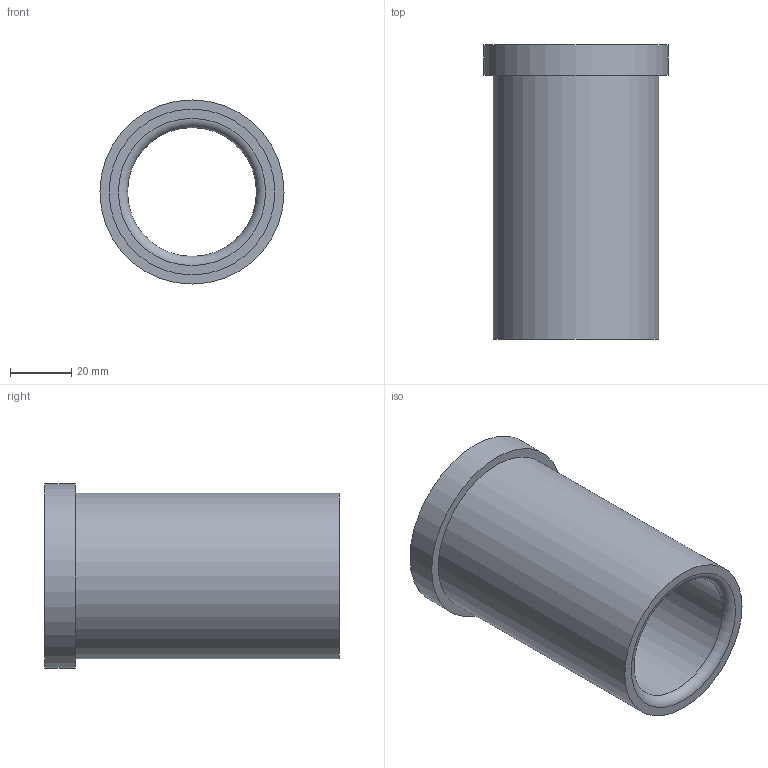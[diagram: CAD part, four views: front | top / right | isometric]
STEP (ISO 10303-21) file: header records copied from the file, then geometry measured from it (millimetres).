
FILE_DESCRIPTION(/* description */ ('STEP AP214'),/* implementation_level */ '2;1');
FILE_NAME(/* name */ '03_12_17957',/* time_stamp */ '2023-06-15T11:35:45+02:00',/* author */ ('License CC BY-ND 4.0'),/* organization */ ('CADENAS'),/* preprocessor_version */ 'ST-DEVELOPER v19.3',/* originating_system */ 'PARTsolutions',/* authorisation */ ' ');
FILE_SCHEMA (('AUTOMOTIVE_DESIGN {1 0 10303 214 3 1 1}'));
Length unit declared in the file: millimetre
Products named in the file (1): VA_Bushing_17957
Bounding box: 60 x 96 x 60 mm (x, y, z)
Volume: 90935.8 mm3; surface area: 31727.4 mm2
Topology: 1 solids, 1 shells, 10 faces, 16 edges, 10 vertices
Faces by surface type: cylinder 4, plane 4, torus 2
Full cylindrical faces by diameter (mm): 42 x1, 42.6 x1, 54 x1, 60 x1
Entity records: 302 total; most frequent: DIRECTION 42, CARTESIAN_POINT 31, AXIS2_PLACEMENT_3D 21, ORIENTED_EDGE 20, EDGE_LOOP 20, FACE_BOUND 20, EDGE_CURVE 10, VERTEX_POINT 10
